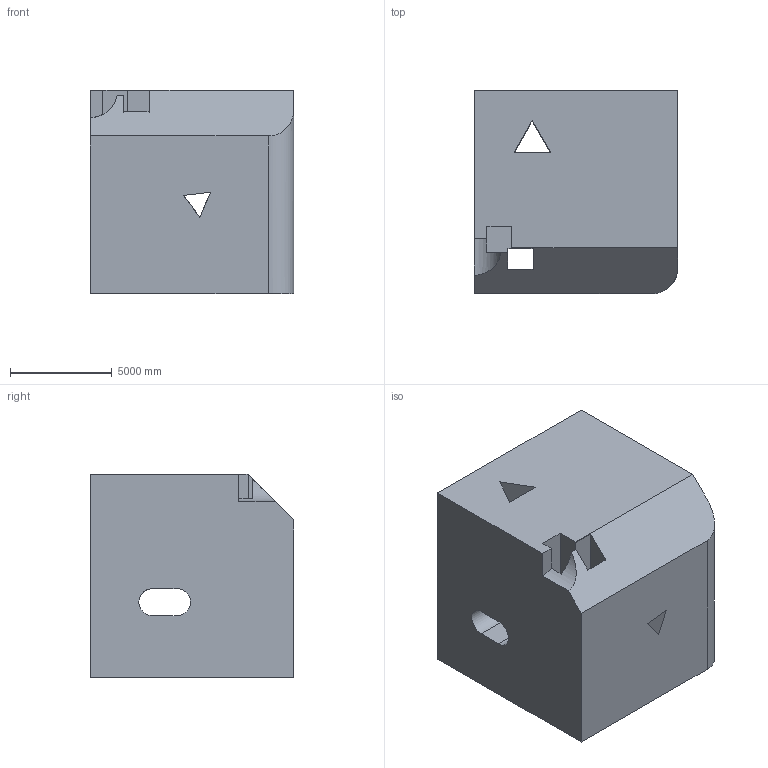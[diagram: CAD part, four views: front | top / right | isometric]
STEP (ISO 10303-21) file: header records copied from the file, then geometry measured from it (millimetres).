
FILE_DESCRIPTION (( 'STEP AP203' ), '1' );
FILE_NAME ('1819.STEP', '2022-08-26T14:12:50', ( 'user' ), ( '' ), 'SwSTEP 2.0', 'SolidWorks 2021', '' );
FILE_SCHEMA (( 'CONFIG_CONTROL_DESIGN' ));
Length unit declared in the file: centimetre
Products named in the file (1): 1819
Bounding box: 10000 x 10000 x 10000 mm (x, y, z)
Volume: 891598719112.6 mm3; surface area: 794955239.1 mm2
Topology: 1 solids, 1 shells, 39 faces, 123 edges, 82 vertices
Faces by surface type: plane 34, cylinder 5
Entity records: 1445 total; most frequent: CARTESIAN_POINT 269, ORIENTED_EDGE 246, DIRECTION 202, EDGE_CURVE 123, VECTOR 108, LINE 108, VERTEX_POINT 82, EDGE_LOOP 47
